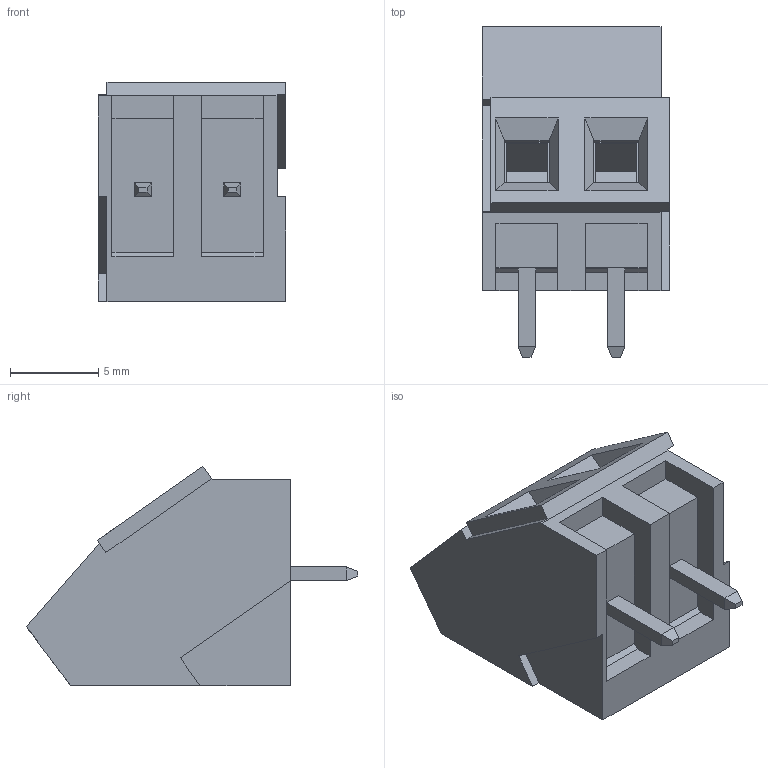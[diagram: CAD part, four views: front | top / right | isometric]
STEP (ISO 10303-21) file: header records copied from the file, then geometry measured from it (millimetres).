
FILE_DESCRIPTION(('STEP AP214'),'1');
FILE_NAME('398800402.stp','2026-06-03T11:07:36',('TraceParts'),('TraceParts S.A.S.'),'Spatial InterOp 3D',' ',' ');
FILE_SCHEMA(('AUTOMOTIVE_DESIGN { 1 0 10303 214 1 1 1 1 }'));
Length unit declared in the file: millimetre
Products named in the file (1): 1
Bounding box: 10.67 x 18.8 x 12.45 mm (x, y, z)
Volume: 1211.8 mm3; surface area: 1083.9 mm2
Topology: 3 solids, 3 shells, 134 faces, 321 edges, 204 vertices
Faces by surface type: plane 104, cylinder 14, cone 12, torus 4
Entity records: 5037 total; most frequent: CARTESIAN_POINT 812, ORIENTED_EDGE 642, DIRECTION 626, EDGE_CURVE 321, LINE 254, VECTOR 254, VERTEX_POINT 204, AXIS2_PLACEMENT_3D 186
